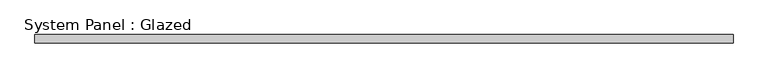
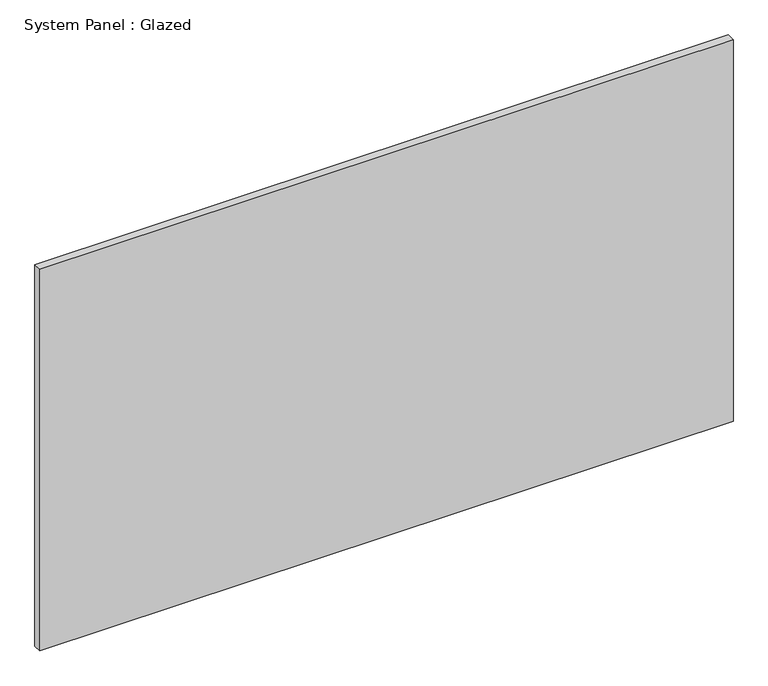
"""IFC4 building model written with IfcOpenShell, lengths in millimetres: plate geometry, System Panel : Glazed."""

from ifc_helpers import new_model, si_unit, origin, origin_with_axes, place, context, project, spatial, polyline, outline, extrude, source, transform, mapped, element, save


def system_panel_glazed_76089698(model_context):
    return source(origin(), model_context, "Body", "SweptSolid", [
        extrude(outline(polyline([(1031.1615744, 24.5), (-1031.1615744, 24.5), (-1031.1615744, 49.5), (1031.1615744, 49.5), (1031.1615744, 24.5)])), origin_with_axes(), (0.0, 0.0, 1.0), 1200.0),
    ])


if __name__ == "__main__":
    model = new_model("IFC4")
    model_context = context("Model", 3, world=origin())
    ifc_project = project(units=[si_unit("LENGTHUNIT", "METRE", prefix="MILLI")], contexts=[model_context])
    site = spatial("IfcSite", under=ifc_project)
    building = spatial("IfcBuilding", under=site)
    placement = place(None, origin())
    system_panel_glazed_shape = system_panel_glazed_76089698(model_context)
    element("IfcPlate", 1, ObjectType="System Panel : Glazed", at=placement, inside=building, context=model_context, shape_type="MappedRepresentation", body=[
        mapped(system_panel_glazed_shape, transform((0.0, 0.0, 0.0), x_axis=(1.0, 0.0, 0.0), y_axis=(0.0, 1.0, 0.0), z_axis=(0.0, 0.0, 1.0))),
    ])
    save(model, "model.ifc")
